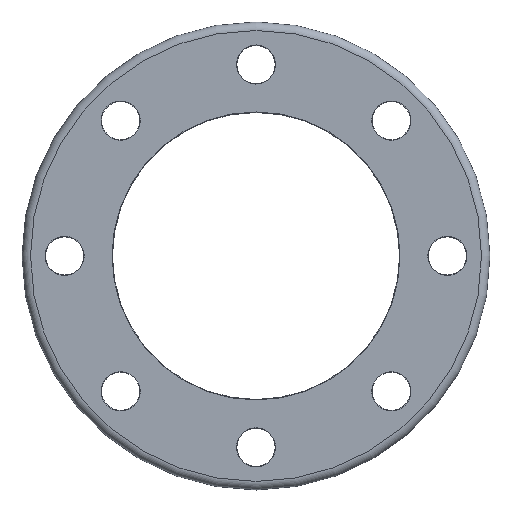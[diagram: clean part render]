
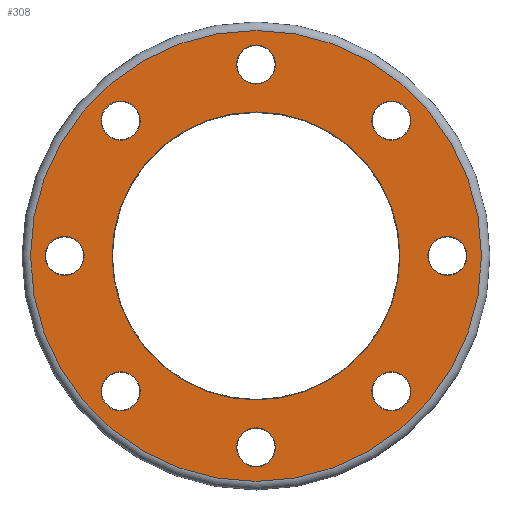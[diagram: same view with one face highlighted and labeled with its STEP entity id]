
A CAD part, top view. The second image highlights one B-rep face of the part: STEP entity #308.
In plain terms, the highlighted planar face has unit normal (0, 0, 1).
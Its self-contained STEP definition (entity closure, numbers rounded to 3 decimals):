
#25=PLANE('',#334);
#28=FACE_BOUND('',#90,.T.);
#29=FACE_BOUND('',#91,.T.);
#30=FACE_BOUND('',#92,.T.);
#31=FACE_BOUND('',#93,.T.);
#32=FACE_BOUND('',#94,.T.);
#33=FACE_BOUND('',#95,.T.);
#34=FACE_BOUND('',#96,.T.);
#35=FACE_BOUND('',#97,.T.);
#36=FACE_BOUND('',#98,.T.);
#66=FACE_OUTER_BOUND('',#89,.T.);
#89=EDGE_LOOP('',(#239));
#90=EDGE_LOOP('',(#240));
#91=EDGE_LOOP('',(#241));
#92=EDGE_LOOP('',(#242));
#93=EDGE_LOOP('',(#243));
#94=EDGE_LOOP('',(#244));
#95=EDGE_LOOP('',(#245));
#96=EDGE_LOOP('',(#246));
#97=EDGE_LOOP('',(#247));
#98=EDGE_LOOP('',(#248));
#148=CIRCLE('',#333,67.7);
#149=CIRCLE('',#335,106.);
#150=CIRCLE('',#336,9.2);
#151=CIRCLE('',#337,9.2);
#152=CIRCLE('',#338,9.2);
#153=CIRCLE('',#339,9.2);
#154=CIRCLE('',#340,9.2);
#155=CIRCLE('',#341,9.2);
#156=CIRCLE('',#342,9.2);
#157=CIRCLE('',#343,9.2);
#178=VERTEX_POINT('',#493);
#179=VERTEX_POINT('',#496);
#180=VERTEX_POINT('',#498);
#181=VERTEX_POINT('',#500);
#182=VERTEX_POINT('',#502);
#183=VERTEX_POINT('',#504);
#184=VERTEX_POINT('',#506);
#185=VERTEX_POINT('',#508);
#186=VERTEX_POINT('',#510);
#187=VERTEX_POINT('',#512);
#208=EDGE_CURVE('',#178,#178,#148,.T.);
#209=EDGE_CURVE('',#179,#179,#149,.T.);
#210=EDGE_CURVE('',#180,#180,#150,.T.);
#211=EDGE_CURVE('',#181,#181,#151,.T.);
#212=EDGE_CURVE('',#182,#182,#152,.T.);
#213=EDGE_CURVE('',#183,#183,#153,.T.);
#214=EDGE_CURVE('',#184,#184,#154,.T.);
#215=EDGE_CURVE('',#185,#185,#155,.T.);
#216=EDGE_CURVE('',#186,#186,#156,.T.);
#217=EDGE_CURVE('',#187,#187,#157,.T.);
#239=ORIENTED_EDGE('',*,*,#209,.F.);
#240=ORIENTED_EDGE('',*,*,#210,.F.);
#241=ORIENTED_EDGE('',*,*,#211,.F.);
#242=ORIENTED_EDGE('',*,*,#212,.F.);
#243=ORIENTED_EDGE('',*,*,#213,.F.);
#244=ORIENTED_EDGE('',*,*,#214,.F.);
#245=ORIENTED_EDGE('',*,*,#215,.F.);
#246=ORIENTED_EDGE('',*,*,#216,.F.);
#247=ORIENTED_EDGE('',*,*,#217,.F.);
#248=ORIENTED_EDGE('',*,*,#208,.F.);
#308=ADVANCED_FACE('',(#66,#28,#29,#30,#31,#32,#33,#34,#35,#36),#25,.T.);
#333=AXIS2_PLACEMENT_3D('',#494,#389,#390);
#334=AXIS2_PLACEMENT_3D('',#495,#391,#392);
#335=AXIS2_PLACEMENT_3D('',#497,#393,#394);
#336=AXIS2_PLACEMENT_3D('',#499,#395,#396);
#337=AXIS2_PLACEMENT_3D('',#501,#397,#398);
#338=AXIS2_PLACEMENT_3D('',#503,#399,#400);
#339=AXIS2_PLACEMENT_3D('',#505,#401,#402);
#340=AXIS2_PLACEMENT_3D('',#507,#403,#404);
#341=AXIS2_PLACEMENT_3D('',#509,#405,#406);
#342=AXIS2_PLACEMENT_3D('',#511,#407,#408);
#343=AXIS2_PLACEMENT_3D('',#513,#409,#410);
#389=DIRECTION('center_axis',(0.,0.,1.));
#390=DIRECTION('ref_axis',(-1.,0.,0.));
#391=DIRECTION('center_axis',(0.,0.,1.));
#392=DIRECTION('ref_axis',(1.,0.,0.));
#393=DIRECTION('center_axis',(0.,0.,-1.));
#394=DIRECTION('ref_axis',(-1.,0.,0.));
#395=DIRECTION('center_axis',(0.,0.,1.));
#396=DIRECTION('ref_axis',(0.,1.,0.));
#397=DIRECTION('center_axis',(0.,0.,1.));
#398=DIRECTION('ref_axis',(1.,0.,0.));
#399=DIRECTION('center_axis',(0.,0.,1.));
#400=DIRECTION('ref_axis',(0.,-1.,0.));
#401=DIRECTION('center_axis',(0.,0.,1.));
#402=DIRECTION('ref_axis',(-1.,0.,0.));
#403=DIRECTION('center_axis',(0.,0.,1.));
#404=DIRECTION('ref_axis',(-0.707,-0.707,0.));
#405=DIRECTION('center_axis',(0.,0.,1.));
#406=DIRECTION('ref_axis',(0.707,-0.707,0.));
#407=DIRECTION('center_axis',(0.,0.,1.));
#408=DIRECTION('ref_axis',(0.707,0.707,0.));
#409=DIRECTION('center_axis',(0.,0.,1.));
#410=DIRECTION('ref_axis',(-0.707,0.707,0.));
#493=CARTESIAN_POINT('',(67.7,0.,22.));
#494=CARTESIAN_POINT('Origin',(0.,0.,22.));
#495=CARTESIAN_POINT('Origin',(0.,0.,22.));
#496=CARTESIAN_POINT('',(106.,0.,22.));
#497=CARTESIAN_POINT('Origin',(0.,0.,22.));
#498=CARTESIAN_POINT('',(90.,-9.2,22.));
#499=CARTESIAN_POINT('Origin',(90.,0.,22.));
#500=CARTESIAN_POINT('',(-9.2,-90.,22.));
#501=CARTESIAN_POINT('Origin',(0.,-90.,22.));
#502=CARTESIAN_POINT('',(-90.,9.2,22.));
#503=CARTESIAN_POINT('Origin',(-90.,0.,22.));
#504=CARTESIAN_POINT('',(9.2,90.,22.));
#505=CARTESIAN_POINT('Origin',(0.,90.,22.));
#506=CARTESIAN_POINT('',(-57.134,70.145,22.));
#507=CARTESIAN_POINT('Origin',(-63.64,63.64,22.));
#508=CARTESIAN_POINT('',(-70.145,-57.134,22.));
#509=CARTESIAN_POINT('Origin',(-63.64,-63.64,22.));
#510=CARTESIAN_POINT('',(57.134,-70.145,22.));
#511=CARTESIAN_POINT('Origin',(63.64,-63.64,22.));
#512=CARTESIAN_POINT('',(70.145,57.134,22.));
#513=CARTESIAN_POINT('Origin',(63.64,63.64,22.));
